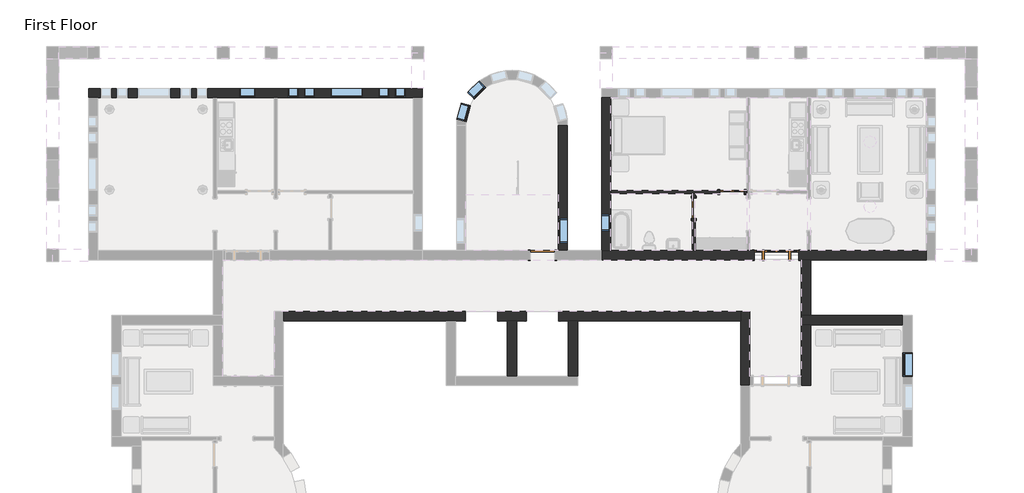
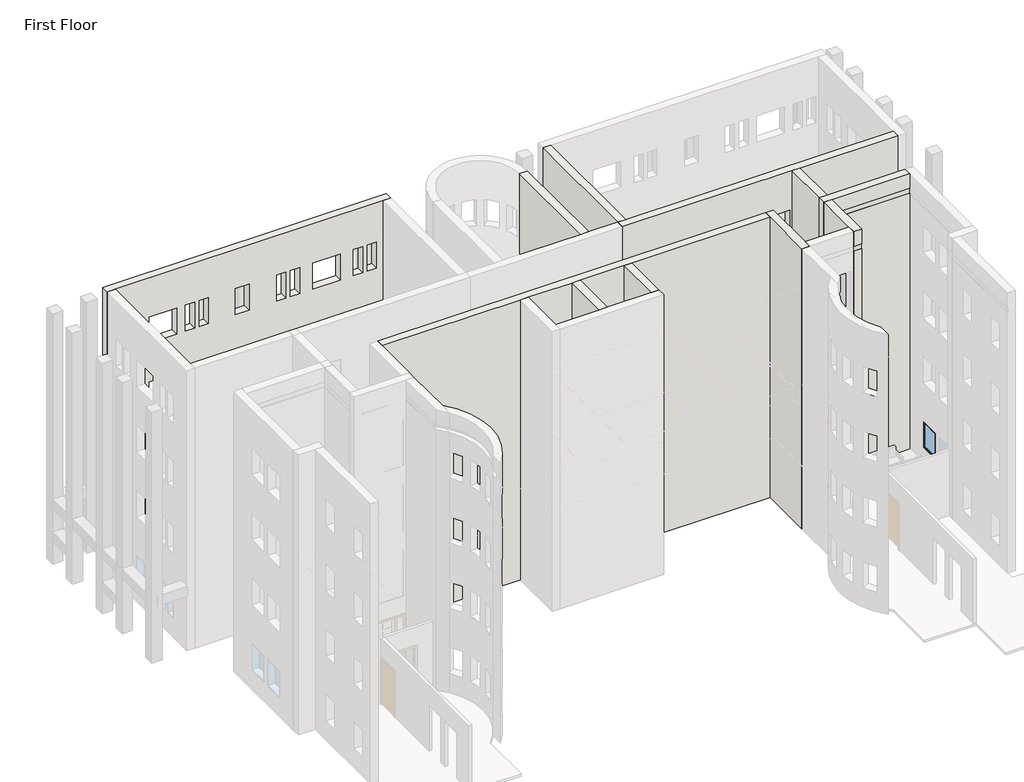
# One storey, part 15 of 24: 13 walls, 11 windows, 4 doors.
"""IFC4 building model written with IfcOpenShell, lengths in millimetres."""

from ifc_helpers import new_model, si_unit, frame, origin, origin_with_axes, place, context, project, spatial, polyline, outline, extrude, faceted_brep, transform, mapped, element, save
from components import door_2e3b4da2, door_4d6c7550, door_632be17d, door_dba5aa2e, window_da97879f, window_d61ef850, window_60baf983, window_ed80354a, window_15c49d37, window_0e2fc6ce, window_d89bf842

model = new_model("IFC4")

# Units and contexts
model_context = context("Model", 3, world=origin())
ifc_project = project(units=[si_unit("LENGTHUNIT", "METRE", prefix="MILLI")], contexts=[model_context])

# Site, building, storey
site = spatial("IfcSite", under=ifc_project)
building = spatial("IfcBuilding", under=site)
storey = spatial("IfcBuildingStorey", under=building, Name="First Floor", Elevation=0.0)

# Doors
placement = place(None, origin())
door_shape = door_2e3b4da2(model_context)
element("IfcDoor", 1, ObjectType="Single-Decorative 2 : 36\" x 84\"", at=placement, inside=storey, context=model_context, shape_type="MappedRepresentation", body=[
    mapped(door_shape, transform((-6669.0589563, 6723.5441867, 0.0), x_axis=(1.0, 0.0, 0.0), y_axis=(0.0, 1.0, 0.0), z_axis=(0.0, 0.0, 1.0))),
])
door_2_shape = door_4d6c7550(model_context)
element("IfcDoor", 2, ObjectType="Single-Flush : 30\" x 84\"", at=placement, inside=storey, context=model_context, shape_type="MappedRepresentation", body=[
    mapped(door_2_shape, transform((-8105.7464563, 6113.9441867, 0.0), x_axis=(0.0, 1.0, 0.0), y_axis=(-1.0, 0.0, 0.0), z_axis=(0.0, 0.0, 1.0))),
])
door_3_shape = door_632be17d(model_context)
element("IfcDoor", 3, ObjectType="Single-Flush : 36\" x 84\"", at=placement, inside=storey, context=model_context, shape_type="MappedRepresentation", body=[
    mapped(door_3_shape, transform((-13792.1714563, 4350.2316867, 0.0), x_axis=(1.0, 0.0, 0.0), y_axis=(0.0, 1.0, 0.0), z_axis=(0.0, 0.0, 1.0))),
])
door_4_shape = door_dba5aa2e(model_context)
element("IfcDoor", 4, ObjectType="Single-Raised Panel with Sidelights : 36\" x 84\"", at=placement, inside=storey, context=model_context, shape_type="MappedRepresentation", body=[
    mapped(door_4_shape, transform((-4992.6589563, 4350.2316867, 0.0), x_axis=(-1.0, 0.0, 0.0), y_axis=(0.0, -1.0, 0.0), z_axis=(0.0, 0.0, 1.0))),
])

# Walls
element("IfcWall", 5, ObjectType="Exterior - Brick on Mtl. Stud", at=placement, inside=storey, context=model_context, shape_type="Brep", body=[
    faceted_brep([(-5830.8589563, 4526.4441867, 2133.6), (-5830.8589563, 4526.4441867, 0.0), (-5995.9589563, 4526.4441867, 0.0), (-6122.9589563, 4526.4441867, 0.0), (-8042.2464563, 4526.4441867, 0.0), (-8169.2464563, 4526.4441867, 0.0), (-11217.2464563, 4526.4441867, 0.0), (-11569.6714563, 4526.4441867, 0.0), (-11571.2589563, 4526.4441867, 0.0), (-11571.2589563, 4526.4441867, 13106.4), (-11569.6714563, 4526.4441867, 13106.4), (-11217.2464563, 4526.4441867, 13106.4), (622.3285437, 4526.4441867, 13106.4), (622.3285437, 4526.4441867, 0.0), (-3709.9589563, 4526.4441867, 0.0), (-3836.9589563, 4526.4441867, 0.0), (-4154.4589563, 4526.4441867, 0.0), (-4154.4589563, 4526.4441867, 2133.6), (-4154.4589563, 4526.4441867, 9144.0), (-4154.4589563, 4526.4441867, 11277.6), (-5830.8589563, 4526.4441867, 11277.6), (-5830.8589563, 4526.4441867, 9144.0), (-4154.4589563, 4526.4441867, 3048.0), (-4154.4589563, 4526.4441867, 5181.6), (-5830.8589563, 4526.4441867, 5181.6), (-5830.8589563, 4526.4441867, 3048.0), (-4154.4589563, 4526.4441867, 6096.0), (-4154.4589563, 4526.4441867, 8229.6), (-5830.8589563, 4526.4441867, 8229.6), (-5830.8589563, 4526.4441867, 6096.0), (-11571.2589563, 4174.0191867, 0.0), (-5830.8589563, 4174.0191867, 0.0), (-5830.8589563, 4174.0191867, 2133.6), (-4154.4589563, 4174.0191867, 2133.6), (-4154.4589563, 4174.0191867, 0.0), (-4062.3839563, 4174.0191867, 0.0), (-3709.9589563, 4174.0191867, 0.0), (622.3285437, 4174.0191867, 0.0), (622.3285437, 4174.0191867, 13106.4), (-3709.9589563, 4174.0191867, 13106.4), (-4062.3839563, 4174.0191867, 13106.4), (-11571.2589563, 4174.0191867, 13106.4), (-4154.4589563, 4174.0191867, 9144.0), (-5830.8589563, 4174.0191867, 9144.0), (-5830.8589563, 4174.0191867, 11277.6), (-4154.4589563, 4174.0191867, 11277.6), (-4154.4589563, 4174.0191867, 3048.0), (-5830.8589563, 4174.0191867, 3048.0), (-5830.8589563, 4174.0191867, 5181.6), (-4154.4589563, 4174.0191867, 5181.6), (-4154.4589563, 4174.0191867, 6096.0), (-5830.8589563, 4174.0191867, 6096.0), (-5830.8589563, 4174.0191867, 8229.6), (-4154.4589563, 4174.0191867, 8229.6)], [[[0, 1, 2, 3, 4, 5, 6, 7, 8, 9, 10, 11, 12, 13, 14, 15, 16, 17], [18, 19, 20, 21], [22, 23, 24, 25], [26, 27, 28, 29]], [[30, 31, 32, 33, 34, 35, 36, 37, 38, 39, 40, 41], [42, 43, 44, 45], [46, 47, 48, 49], [50, 51, 52, 53]], [[8, 7, 6, 5, 4, 3, 2, 1, 31, 30]], [[16, 15, 14, 13, 37, 36, 35, 34]], [[9, 8, 30, 41]], [[12, 11, 10, 9, 41, 40, 39, 38]], [[13, 12, 38, 37]], [[32, 31, 1, 0]], [[33, 32, 0, 17]], [[34, 33, 17, 16]], [[43, 42, 18, 21]], [[44, 43, 21, 20]], [[45, 44, 20, 19]], [[42, 45, 19, 18]], [[47, 46, 22, 25]], [[48, 47, 25, 24]], [[49, 48, 24, 23]], [[46, 49, 23, 22]], [[51, 50, 26, 29]], [[52, 51, 29, 28]], [[53, 52, 28, 27]], [[50, 53, 27, 26]]]),
])
element("IfcWall", 6, ObjectType="Exterior - Brick on Mtl. Stud", at=placement, inside=storey, context=model_context, shape_type="Brep", body=[
    faceted_brep([(-11217.2464563, 4526.4441867, 0.0), (-11217.2464563, 6660.0441867, 0.0), (-11217.2464563, 6787.0441867, 0.0), (-11217.2464563, 10270.0191867, 0.0), (-11217.2464563, 10270.0191867, 13106.4), (-11217.2464563, 4526.4441867, 13106.4), (-11217.2464563, 5264.6316867, 8229.6), (-11217.2464563, 5874.2316867, 8229.6), (-11217.2464563, 5874.2316867, 7010.4), (-11217.2464563, 5264.6316867, 7010.4), (-11217.2464563, 5264.6316867, 5181.6), (-11217.2464563, 5874.2316867, 5181.6), (-11217.2464563, 5874.2316867, 3962.4), (-11217.2464563, 5264.6316867, 3962.4), (-11217.2464563, 5264.6316867, 11277.6), (-11217.2464563, 5874.2316867, 11277.6), (-11217.2464563, 5874.2316867, 10058.4), (-11217.2464563, 5264.6316867, 10058.4), (-11217.2464563, 5264.6316867, 2133.6), (-11217.2464563, 5874.2316867, 2133.6), (-11217.2464563, 5874.2316867, 914.4), (-11217.2464563, 5264.6316867, 914.4), (-11569.6714563, 4526.4441867, 0.0), (-11569.6714563, 4526.4441867, 13106.4), (-11569.6714563, 10270.0191867, 13106.4), (-11569.6714563, 10270.0191867, 0.0), (-11569.6714563, 5264.6316867, 8229.6), (-11569.6714563, 5264.6316867, 7010.4), (-11569.6714563, 5874.2316867, 7010.4), (-11569.6714563, 5874.2316867, 8229.6), (-11569.6714563, 5264.6316867, 5181.6), (-11569.6714563, 5264.6316867, 3962.4), (-11569.6714563, 5874.2316867, 3962.4), (-11569.6714563, 5874.2316867, 5181.6), (-11569.6714563, 5264.6316867, 11277.6), (-11569.6714563, 5264.6316867, 10058.4), (-11569.6714563, 5874.2316867, 10058.4), (-11569.6714563, 5874.2316867, 11277.6), (-11569.6714563, 5264.6316867, 2133.6), (-11569.6714563, 5264.6316867, 914.4), (-11569.6714563, 5874.2316867, 914.4), (-11569.6714563, 5874.2316867, 2133.6), (-11382.3464563, 4526.4441867, 0.0), (-11382.3464563, 10270.0191867, 0.0)], [[[0, 1, 2, 3, 4, 5], [6, 7, 8, 9], [10, 11, 12, 13], [14, 15, 16, 17], [18, 19, 20, 21]], [[22, 23, 24, 25], [26, 27, 28, 29], [30, 31, 32, 33], [34, 35, 36, 37], [38, 39, 40, 41]], [[5, 4, 24, 23]], [[0, 5, 23, 22, 42]], [[4, 3, 43, 25, 24]], [[42, 22, 25, 43]], [[3, 2, 1, 0, 42, 43]], [[27, 26, 6, 9]], [[28, 27, 9, 8]], [[29, 28, 8, 7]], [[26, 29, 7, 6]], [[31, 30, 10, 13]], [[32, 31, 13, 12]], [[33, 32, 12, 11]], [[30, 33, 11, 10]], [[35, 34, 14, 17]], [[36, 35, 17, 16]], [[37, 36, 16, 15]], [[34, 37, 15, 14]], [[39, 38, 18, 21]], [[40, 39, 21, 20]], [[41, 40, 20, 19]], [[38, 41, 19, 18]]]),
])
element("IfcWall", 7, ObjectType="Exterior - Brick on Mtl. Stud", at=placement, inside=storey, context=model_context, shape_type="SweptSolid", body=[
    extrude(outline(polyline([(-12472.9589563, 1888.0191867), (-12472.9589563, -197.9558133), (-12825.3839563, -197.9558133), (-12825.3839563, 1888.0191867), (-12472.9589563, 1888.0191867)])), origin_with_axes(), (0.0, 0.0, 1.0), 13106.4),
])
element("IfcWall", 8, ObjectType="Exterior - Brick on Mtl. Stud", at=placement, inside=storey, context=model_context, shape_type="Brep", body=[
    faceted_brep([(-15468.5714563, 1888.0191867, 0.0), (-15111.3839563, 1888.0191867, 0.0), (-14758.9589563, 1888.0191867, 0.0), (-14401.7714563, 1888.0191867, 0.0), (-14401.7714563, 1888.0191867, 2133.6), (-13182.5714563, 1888.0191867, 2133.6), (-13182.5714563, 1888.0191867, 0.0), (-12825.3839563, 1888.0191867, 0.0), (-12472.9589563, 1888.0191867, 0.0), (-6348.3839563, 1888.0191867, 0.0), (-6348.3839563, 1888.0191867, 13106.4), (-12472.9589563, 1888.0191867, 13106.4), (-12825.3839563, 1888.0191867, 13106.4), (-14758.9589563, 1888.0191867, 13106.4), (-15111.3839563, 1888.0191867, 13106.4), (-17044.9589563, 1888.0191867, 13106.4), (-17397.3839563, 1888.0191867, 13106.4), (-23521.9589563, 1888.0191867, 13106.4), (-23521.9589563, 1888.0191867, 0.0), (-17397.3839563, 1888.0191867, 0.0), (-17044.9589563, 1888.0191867, 0.0), (-16687.7714563, 1888.0191867, 0.0), (-16687.7714563, 1888.0191867, 2133.6), (-15468.5714563, 1888.0191867, 2133.6), (-13182.5714563, 1888.0191867, 8229.6), (-13182.5714563, 1888.0191867, 6096.0), (-14401.7714563, 1888.0191867, 6096.0), (-14401.7714563, 1888.0191867, 8229.6), (-15468.5714563, 1888.0191867, 8229.6), (-15468.5714563, 1888.0191867, 6096.0), (-16687.7714563, 1888.0191867, 6096.0), (-16687.7714563, 1888.0191867, 8229.6), (-13182.5714563, 1888.0191867, 5181.6), (-13182.5714563, 1888.0191867, 3048.0), (-14401.7714563, 1888.0191867, 3048.0), (-14401.7714563, 1888.0191867, 5181.6), (-15468.5714563, 1888.0191867, 5181.6), (-15468.5714563, 1888.0191867, 3048.0), (-16687.7714563, 1888.0191867, 3048.0), (-16687.7714563, 1888.0191867, 5181.6), (-13182.5714563, 1888.0191867, 11277.6), (-13182.5714563, 1888.0191867, 9144.0), (-14401.7714563, 1888.0191867, 9144.0), (-14401.7714563, 1888.0191867, 11277.6), (-15468.5714563, 1888.0191867, 11277.6), (-15468.5714563, 1888.0191867, 9144.0), (-16687.7714563, 1888.0191867, 9144.0), (-16687.7714563, 1888.0191867, 11277.6), (-14401.7714563, 2240.4441867, 2133.6), (-14401.7714563, 2240.4441867, 0.0), (-15468.5714563, 2240.4441867, 0.0), (-15468.5714563, 2240.4441867, 2133.6), (-16687.7714563, 2240.4441867, 2133.6), (-16687.7714563, 2240.4441867, 0.0), (-23521.9589563, 2240.4441867, 0.0), (-23521.9589563, 2240.4441867, 13106.4), (-6348.3839563, 2240.4441867, 13106.4), (-6348.3839563, 2240.4441867, 0.0), (-13182.5714563, 2240.4441867, 0.0), (-13182.5714563, 2240.4441867, 2133.6), (-13182.5714563, 2240.4441867, 8229.6), (-14401.7714563, 2240.4441867, 8229.6), (-14401.7714563, 2240.4441867, 6096.0), (-13182.5714563, 2240.4441867, 6096.0), (-15468.5714563, 2240.4441867, 8229.6), (-16687.7714563, 2240.4441867, 8229.6), (-16687.7714563, 2240.4441867, 6096.0), (-15468.5714563, 2240.4441867, 6096.0), (-13182.5714563, 2240.4441867, 5181.6), (-14401.7714563, 2240.4441867, 5181.6), (-14401.7714563, 2240.4441867, 3048.0), (-13182.5714563, 2240.4441867, 3048.0), (-15468.5714563, 2240.4441867, 5181.6), (-16687.7714563, 2240.4441867, 5181.6), (-16687.7714563, 2240.4441867, 3048.0), (-15468.5714563, 2240.4441867, 3048.0), (-13182.5714563, 2240.4441867, 11277.6), (-14401.7714563, 2240.4441867, 11277.6), (-14401.7714563, 2240.4441867, 9144.0), (-13182.5714563, 2240.4441867, 9144.0), (-15468.5714563, 2240.4441867, 11277.6), (-16687.7714563, 2240.4441867, 11277.6), (-16687.7714563, 2240.4441867, 9144.0), (-15468.5714563, 2240.4441867, 9144.0)], [[[0, 1, 2, 3, 4, 5, 6, 7, 8, 9, 10, 11, 12, 13, 14, 15, 16, 17, 18, 19, 20, 21, 22, 23], [24, 25, 26, 27], [28, 29, 30, 31], [32, 33, 34, 35], [36, 37, 38, 39], [40, 41, 42, 43], [44, 45, 46, 47]], [[48, 49, 50, 51, 52, 53, 54, 55, 56, 57, 58, 59], [60, 61, 62, 63], [64, 65, 66, 67], [68, 69, 70, 71], [72, 73, 74, 75], [76, 77, 78, 79], [80, 81, 82, 83]], [[54, 53, 21, 20, 19, 18]], [[50, 49, 3, 2, 1, 0]], [[58, 57, 9, 8, 7, 6]], [[17, 16, 15, 14, 13, 12, 11, 10, 56, 55]], [[10, 9, 57, 56]], [[18, 17, 55, 54]], [[0, 23, 51, 50]], [[22, 21, 53, 52]], [[23, 22, 52, 51]], [[6, 5, 59, 58]], [[4, 3, 49, 48]], [[5, 4, 48, 59]], [[25, 24, 60, 63]], [[26, 25, 63, 62]], [[27, 26, 62, 61]], [[24, 27, 61, 60]], [[29, 28, 64, 67]], [[30, 29, 67, 66]], [[31, 30, 66, 65]], [[28, 31, 65, 64]], [[33, 32, 68, 71]], [[34, 33, 71, 70]], [[35, 34, 70, 69]], [[32, 35, 69, 68]], [[37, 36, 72, 75]], [[38, 37, 75, 74]], [[39, 38, 74, 73]], [[36, 39, 73, 72]], [[41, 40, 76, 79]], [[42, 41, 79, 78]], [[43, 42, 78, 77]], [[40, 43, 77, 76]], [[45, 44, 80, 83]], [[46, 45, 83, 82]], [[47, 46, 82, 81]], [[44, 47, 81, 80]]]),
])
element("IfcWall", 9, ObjectType="Exterior - Brick on Mtl. Stud", at=placement, inside=storey, context=model_context, shape_type="SweptSolid", body=[
    extrude(outline(polyline([(4526.4441867, 0.0), (4526.4441867, 13106.4), (9227.0316867, 13106.4), (9227.0316867, 0.0), (4526.4441867, 0.0)]), holes=[polyline([(5721.8316867, 8229.6), (4807.4316867, 8229.6), (4807.4316867, 7010.4), (5721.8316867, 7010.4), (5721.8316867, 8229.6)]), polyline([(5721.8316867, 5181.6), (4807.4316867, 5181.6), (4807.4316867, 3962.4), (5721.8316867, 3962.4), (5721.8316867, 5181.6)]), polyline([(5721.8316867, 11277.6), (4807.4316867, 11277.6), (4807.4316867, 10058.4), (5721.8316867, 10058.4), (5721.8316867, 11277.6)]), polyline([(5721.8316867, 2133.6), (4807.4316867, 2133.6), (4807.4316867, 914.4), (5721.8316867, 914.4), (5721.8316867, 2133.6)])]), frame((-13206.3839563, 0.0, 0.0), z_axis=(1.0, 0.0, 0.0), x_axis=(0.0, 1.0, 0.0)), (0.0, 0.0, 1.0), 352.425),
])
element("IfcWall", 10, ObjectType="Exterior - Brick on Mtl. Stud", at=placement, inside=storey, context=model_context, shape_type="SweptSolid", body=[
    extrude(outline(polyline([(-14758.9589563, 1888.0191867), (-14758.9589563, -197.9558133), (-15111.3839563, -197.9558133), (-15111.3839563, 1888.0191867), (-14758.9589563, 1888.0191867)])), origin_with_axes(), (0.0, 0.0, 1.0), 13106.4),
])
element("IfcWall", 11, ObjectType="Exterior - Brick on Mtl. Stud", at=placement, inside=storey, context=model_context, shape_type="Brep", body=[
    faceted_brep([(-6348.3839563, 2240.4441867, 0.0), (-6348.3839563, 1888.0191867, 0.0), (-6348.3839563, -550.3808133, 0.0), (-6348.3839563, -550.3808133, 13106.4), (-6348.3839563, 1888.0191867, 13106.4), (-6348.3839563, 2240.4441867, 13106.4), (-5995.9589563, 2240.4441867, 0.0), (-5995.9589563, 2240.4441867, 13106.4), (-5995.9589563, -197.9558133, 13106.4), (-5995.9589563, -550.3808133, 13106.4), (-5995.9589563, -550.3808133, 12420.6), (-5995.9589563, -550.3808133, 12192.0), (-5995.9589563, -550.3808133, 0.0), (-5995.9589563, -197.9558133, 0.0)], [[[0, 1, 2, 3, 4, 5]], [[6, 7, 8, 9, 10, 11, 12, 13]], [[2, 1, 0, 6, 13, 12]], [[5, 4, 3, 9, 8, 7]], [[0, 5, 7, 6]], [[3, 2, 12, 11, 10, 9]]]),
])
element("IfcWall", 12, ObjectType="Exterior - Brick on Mtl. Stud", at=placement, inside=storey, context=model_context, shape_type="SweptSolid", body=[
    extrude(outline(polyline([(-3709.9589563, 4174.0191867), (-3709.9589563, 2088.0441867), (-4062.3839563, 2088.0441867), (-4062.3839563, 4174.0191867), (-3709.9589563, 4174.0191867)])), origin_with_axes(), (0.0, 0.0, 1.0), 13106.4),
])
element("IfcWall", 13, ObjectType="Exterior - Brick on Mtl. Stud", at=placement, inside=storey, context=model_context, shape_type="Brep", body=[
    faceted_brep([(-252.3839563, 2088.0441867, 0.0), (-3709.9589563, 2088.0441867, 0.0), (-4062.3839563, 2088.0441867, 0.0), (-4062.3839563, 2088.0441867, 13106.4), (-3709.9589563, 2088.0441867, 13106.4), (-252.3839563, 2088.0441867, 13106.4), (-4062.3839563, 1735.6191867, 0.0), (-3709.9589563, 1735.6191867, 0.0), (-252.3839563, 1735.6191867, 0.0), (-252.3839563, 1735.6191867, 12192.0), (-3709.9589563, 1735.6191867, 12192.0), (-3722.6589563, 1735.6191867, 12192.0), (-3722.6589563, 1735.6191867, 12420.6), (-3709.9589563, 1735.6191867, 12420.6), (-252.3839563, 1735.6191867, 12420.6), (-252.3839563, 1735.6191867, 13106.4), (-3709.9589563, 1735.6191867, 13106.4), (-4062.3839563, 1735.6191867, 13106.4), (-252.3839563, 1748.3191867, 12420.6), (-252.3839563, 1748.3191867, 12192.0), (-3722.6589563, 1748.3191867, 12192.0), (-3722.6589563, 1748.3191867, 12420.6)], [[[0, 1, 2, 3, 4, 5]], [[6, 7, 8, 9, 10, 11, 12, 13, 14, 15, 16, 17]], [[2, 1, 0, 8, 7, 6]], [[5, 4, 3, 17, 16, 15]], [[3, 2, 6, 17]], [[0, 5, 15, 14, 18, 19, 9, 8]], [[19, 20, 11, 10, 9]], [[12, 21, 18, 14, 13]], [[21, 20, 19, 18]], [[20, 21, 12, 11]]]),
])
element("IfcWall", 14, ObjectType="Exterior - Brick on Mtl. Stud", at=placement, inside=storey, context=model_context, shape_type="Brep", body=[
    faceted_brep([(-4062.3839563, 1735.6191867, 0.0), (-4062.3839563, -197.9558133, 0.0), (-4062.3839563, -550.3808133, 0.0), (-4062.3839563, -550.3808133, 12192.0), (-4062.3839563, -537.6808133, 12192.0), (-4062.3839563, -537.6808133, 12420.6), (-4062.3839563, -550.3808133, 12420.6), (-4062.3839563, -550.3808133, 13106.4), (-4062.3839563, -197.9558133, 13106.4), (-4062.3839563, 1735.6191867, 13106.4), (-3709.9589563, -550.3808133, 0.0), (-3709.9589563, 1735.6191867, 0.0), (-3709.9589563, 1735.6191867, 12192.0), (-3709.9589563, -550.3808133, 12192.0), (-3709.9589563, 1735.6191867, 13106.4), (-3709.9589563, -550.3808133, 13106.4), (-3709.9589563, -550.3808133, 12420.6), (-3709.9589563, 1735.6191867, 12420.6), (-3722.6589563, 1735.6191867, 12420.6), (-3722.6589563, 1735.6191867, 12192.0), (-3722.6589563, -537.6808133, 12192.0), (-3722.6589563, -537.6808133, 12420.6)], [[[0, 1, 2, 3, 4, 5, 6, 7, 8, 9]], [[10, 11, 12, 13]], [[14, 15, 16, 17]], [[2, 1, 0, 11, 10]], [[9, 8, 7, 15, 14]], [[0, 9, 14, 17, 18, 19, 12, 11]], [[2, 10, 13, 3]], [[15, 7, 6, 16]], [[19, 20, 4, 3, 13, 12]], [[5, 21, 18, 17, 16, 6]], [[21, 20, 19, 18]], [[20, 21, 5, 4]]]),
])
element("IfcWall", 15, ObjectType="Exterior - Brick on Mtl. Stud", at=placement, inside=storey, context=model_context, shape_type="Brep", body=[
    faceted_brep([(-18300.6714563, 10622.4441867, 0.0), (-18487.9964563, 10622.4441867, 0.0), (-30657.7714563, 10622.4441867, 0.0), (-30845.0964563, 10622.4441867, 0.0), (-30845.0964563, 10622.4441867, 13106.4), (-18300.6714563, 10622.4441867, 13106.4), (-24572.8839563, 10622.4441867, 2133.6), (-25182.4839563, 10622.4441867, 2133.6), (-25182.4839563, 10622.4441867, 914.4), (-24572.8839563, 10622.4441867, 914.4), (-20534.2839563, 10622.4441867, 2133.6), (-21753.4839563, 10622.4441867, 2133.6), (-21753.4839563, 10622.4441867, 914.4), (-20534.2839563, 10622.4441867, 914.4), (-27773.2839563, 10622.4441867, 2133.6), (-28992.4839563, 10622.4441867, 2133.6), (-28992.4839563, 10622.4441867, 914.4), (-27773.2839563, 10622.4441867, 914.4), (-18934.0839563, 10622.4441867, 2133.6), (-19340.4839563, 10622.4441867, 2133.6), (-19340.4839563, 10622.4441867, 914.4), (-18934.0839563, 10622.4441867, 914.4), (-19543.6839563, 10622.4441867, 2133.6), (-19950.0839563, 10622.4441867, 2133.6), (-19950.0839563, 10622.4441867, 914.4), (-19543.6839563, 10622.4441867, 914.4), (-23353.6839563, 10622.4441867, 2133.6), (-23353.6839563, 10622.4441867, 914.4), (-22947.2839563, 10622.4441867, 914.4), (-22947.2839563, 10622.4441867, 2133.6), (-22744.0839563, 10622.4441867, 2133.6), (-22744.0839563, 10622.4441867, 914.4), (-22337.6839563, 10622.4441867, 914.4), (-22337.6839563, 10622.4441867, 2133.6), (-26376.2839563, 10622.4441867, 2133.6), (-26782.6839563, 10622.4441867, 2133.6), (-26782.6839563, 10622.4441867, 914.4), (-26376.2839563, 10622.4441867, 914.4), (-26985.8839563, 10622.4441867, 2133.6), (-27392.2839563, 10622.4441867, 2133.6), (-27392.2839563, 10622.4441867, 914.4), (-26985.8839563, 10622.4441867, 914.4), (-30389.4839563, 10622.4441867, 2133.6), (-30389.4839563, 10622.4441867, 914.4), (-29983.0839563, 10622.4441867, 914.4), (-29983.0839563, 10622.4441867, 2133.6), (-29779.8839563, 10622.4441867, 2133.6), (-29779.8839563, 10622.4441867, 914.4), (-29373.4839563, 10622.4441867, 914.4), (-29373.4839563, 10622.4441867, 2133.6), (-24572.8839563, 10622.4441867, 11277.6), (-25182.4839563, 10622.4441867, 11277.6), (-25182.4839563, 10622.4441867, 10058.4), (-24572.8839563, 10622.4441867, 10058.4), (-20534.2839563, 10622.4441867, 11277.6), (-21753.4839563, 10622.4441867, 11277.6), (-21753.4839563, 10622.4441867, 10058.4), (-20534.2839563, 10622.4441867, 10058.4), (-27773.2839563, 10622.4441867, 11277.6), (-28992.4839563, 10622.4441867, 11277.6), (-28992.4839563, 10622.4441867, 10058.4), (-27773.2839563, 10622.4441867, 10058.4), (-18934.0839563, 10622.4441867, 11277.6), (-19340.4839563, 10622.4441867, 11277.6), (-19340.4839563, 10622.4441867, 10058.4), (-18934.0839563, 10622.4441867, 10058.4), (-19543.6839563, 10622.4441867, 11277.6), (-19950.0839563, 10622.4441867, 11277.6), (-19950.0839563, 10622.4441867, 10058.4), (-19543.6839563, 10622.4441867, 10058.4), (-23353.6839563, 10622.4441867, 11277.6), (-23353.6839563, 10622.4441867, 10058.4), (-22947.2839563, 10622.4441867, 10058.4), (-22947.2839563, 10622.4441867, 11277.6), (-22744.0839563, 10622.4441867, 11277.6), (-22744.0839563, 10622.4441867, 10058.4), (-22337.6839563, 10622.4441867, 10058.4), (-22337.6839563, 10622.4441867, 11277.6), (-26376.2839563, 10622.4441867, 11277.6), (-26782.6839563, 10622.4441867, 11277.6), (-26782.6839563, 10622.4441867, 10058.4), (-26376.2839563, 10622.4441867, 10058.4), (-26985.8839563, 10622.4441867, 11277.6), (-27392.2839563, 10622.4441867, 11277.6), (-27392.2839563, 10622.4441867, 10058.4), (-26985.8839563, 10622.4441867, 10058.4), (-30389.4839563, 10622.4441867, 11277.6), (-30389.4839563, 10622.4441867, 10058.4), (-29983.0839563, 10622.4441867, 10058.4), (-29983.0839563, 10622.4441867, 11277.6), (-29779.8839563, 10622.4441867, 11277.6), (-29779.8839563, 10622.4441867, 10058.4), (-29373.4839563, 10622.4441867, 10058.4), (-29373.4839563, 10622.4441867, 11277.6), (-24572.8839563, 10622.4441867, 5181.6), (-25182.4839563, 10622.4441867, 5181.6), (-25182.4839563, 10622.4441867, 3962.4), (-24572.8839563, 10622.4441867, 3962.4), (-20534.2839563, 10622.4441867, 5181.6), (-21753.4839563, 10622.4441867, 5181.6), (-21753.4839563, 10622.4441867, 3962.4), (-20534.2839563, 10622.4441867, 3962.4), (-27773.2839563, 10622.4441867, 5181.6), (-28992.4839563, 10622.4441867, 5181.6), (-28992.4839563, 10622.4441867, 3962.4), (-27773.2839563, 10622.4441867, 3962.4), (-18934.0839563, 10622.4441867, 5181.6), (-19340.4839563, 10622.4441867, 5181.6), (-19340.4839563, 10622.4441867, 3962.4), (-18934.0839563, 10622.4441867, 3962.4), (-19543.6839563, 10622.4441867, 5181.6), (-19950.0839563, 10622.4441867, 5181.6), (-19950.0839563, 10622.4441867, 3962.4), (-19543.6839563, 10622.4441867, 3962.4), (-23353.6839563, 10622.4441867, 5181.6), (-23353.6839563, 10622.4441867, 3962.4), (-22947.2839563, 10622.4441867, 3962.4), (-22947.2839563, 10622.4441867, 5181.6), (-22744.0839563, 10622.4441867, 5181.6), (-22744.0839563, 10622.4441867, 3962.4), (-22337.6839563, 10622.4441867, 3962.4), (-22337.6839563, 10622.4441867, 5181.6), (-26376.2839563, 10622.4441867, 5181.6), (-26782.6839563, 10622.4441867, 5181.6), (-26782.6839563, 10622.4441867, 3962.4), (-26376.2839563, 10622.4441867, 3962.4), (-26985.8839563, 10622.4441867, 5181.6), (-27392.2839563, 10622.4441867, 5181.6), (-27392.2839563, 10622.4441867, 3962.4), (-26985.8839563, 10622.4441867, 3962.4), (-30389.4839563, 10622.4441867, 5181.6), (-30389.4839563, 10622.4441867, 3962.4), (-29983.0839563, 10622.4441867, 3962.4), (-29983.0839563, 10622.4441867, 5181.6), (-29779.8839563, 10622.4441867, 5181.6), (-29779.8839563, 10622.4441867, 3962.4), (-29373.4839563, 10622.4441867, 3962.4), (-29373.4839563, 10622.4441867, 5181.6), (-24572.8839563, 10622.4441867, 8229.6), (-25182.4839563, 10622.4441867, 8229.6), (-25182.4839563, 10622.4441867, 7010.4), (-24572.8839563, 10622.4441867, 7010.4), (-20534.2839563, 10622.4441867, 8229.6), (-21753.4839563, 10622.4441867, 8229.6), (-21753.4839563, 10622.4441867, 7010.4), (-20534.2839563, 10622.4441867, 7010.4), (-27773.2839563, 10622.4441867, 8229.6), (-28992.4839563, 10622.4441867, 8229.6), (-28992.4839563, 10622.4441867, 7010.4), (-27773.2839563, 10622.4441867, 7010.4), (-18934.0839563, 10622.4441867, 8229.6), (-19340.4839563, 10622.4441867, 8229.6), (-19340.4839563, 10622.4441867, 7010.4), (-18934.0839563, 10622.4441867, 7010.4), (-19543.6839563, 10622.4441867, 8229.6), (-19950.0839563, 10622.4441867, 8229.6), (-19950.0839563, 10622.4441867, 7010.4), (-19543.6839563, 10622.4441867, 7010.4), (-23353.6839563, 10622.4441867, 8229.6), (-23353.6839563, 10622.4441867, 7010.4), (-22947.2839563, 10622.4441867, 7010.4), (-22947.2839563, 10622.4441867, 8229.6), (-22744.0839563, 10622.4441867, 8229.6), (-22744.0839563, 10622.4441867, 7010.4), (-22337.6839563, 10622.4441867, 7010.4), (-22337.6839563, 10622.4441867, 8229.6), (-26376.2839563, 10622.4441867, 8229.6), (-26782.6839563, 10622.4441867, 8229.6), (-26782.6839563, 10622.4441867, 7010.4), (-26376.2839563, 10622.4441867, 7010.4), (-26985.8839563, 10622.4441867, 8229.6), (-27392.2839563, 10622.4441867, 8229.6), (-27392.2839563, 10622.4441867, 7010.4), (-26985.8839563, 10622.4441867, 7010.4), (-30389.4839563, 10622.4441867, 8229.6), (-30389.4839563, 10622.4441867, 7010.4), (-29983.0839563, 10622.4441867, 7010.4), (-29983.0839563, 10622.4441867, 8229.6), (-29779.8839563, 10622.4441867, 8229.6), (-29779.8839563, 10622.4441867, 7010.4), (-29373.4839563, 10622.4441867, 7010.4), (-29373.4839563, 10622.4441867, 8229.6), (-18300.6714563, 10270.0191867, 0.0), (-18300.6714563, 10270.0191867, 13106.4), (-18653.0964563, 10270.0191867, 13106.4), (-30492.6714563, 10270.0191867, 13106.4), (-30845.0964563, 10270.0191867, 13106.4), (-30845.0964563, 10270.0191867, 0.0), (-30657.7714563, 10270.0191867, 0.0), (-30492.6714563, 10270.0191867, 0.0), (-26160.3839563, 10270.0191867, 0.0), (-26033.3839563, 10270.0191867, 0.0), (-23874.3839563, 10270.0191867, 0.0), (-23747.3839563, 10270.0191867, 0.0), (-18653.0964563, 10270.0191867, 0.0), (-18487.9964563, 10270.0191867, 0.0), (-24572.8839563, 10270.0191867, 2133.6), (-24572.8839563, 10270.0191867, 914.4), (-25182.4839563, 10270.0191867, 914.4), (-25182.4839563, 10270.0191867, 2133.6), (-20534.2839563, 10270.0191867, 2133.6), (-20534.2839563, 10270.0191867, 914.4), (-21753.4839563, 10270.0191867, 914.4), (-21753.4839563, 10270.0191867, 2133.6), (-27773.2839563, 10270.0191867, 2133.6), (-27773.2839563, 10270.0191867, 914.4), (-28992.4839563, 10270.0191867, 914.4), (-28992.4839563, 10270.0191867, 2133.6), (-18934.0839563, 10270.0191867, 2133.6), (-18934.0839563, 10270.0191867, 914.4), (-19340.4839563, 10270.0191867, 914.4), (-19340.4839563, 10270.0191867, 2133.6), (-19543.6839563, 10270.0191867, 2133.6), (-19543.6839563, 10270.0191867, 914.4), (-19950.0839563, 10270.0191867, 914.4), (-19950.0839563, 10270.0191867, 2133.6), (-23353.6839563, 10270.0191867, 2133.6), (-22947.2839563, 10270.0191867, 2133.6), (-22947.2839563, 10270.0191867, 914.4), (-23353.6839563, 10270.0191867, 914.4), (-22744.0839563, 10270.0191867, 2133.6), (-22337.6839563, 10270.0191867, 2133.6), (-22337.6839563, 10270.0191867, 914.4), (-22744.0839563, 10270.0191867, 914.4), (-26376.2839563, 10270.0191867, 2133.6), (-26376.2839563, 10270.0191867, 914.4), (-26782.6839563, 10270.0191867, 914.4), (-26782.6839563, 10270.0191867, 2133.6), (-26985.8839563, 10270.0191867, 2133.6), (-26985.8839563, 10270.0191867, 914.4), (-27392.2839563, 10270.0191867, 914.4), (-27392.2839563, 10270.0191867, 2133.6), (-30389.4839563, 10270.0191867, 2133.6), (-29983.0839563, 10270.0191867, 2133.6), (-29983.0839563, 10270.0191867, 914.4), (-30389.4839563, 10270.0191867, 914.4), (-29779.8839563, 10270.0191867, 2133.6), (-29373.4839563, 10270.0191867, 2133.6), (-29373.4839563, 10270.0191867, 914.4), (-29779.8839563, 10270.0191867, 914.4), (-24572.8839563, 10270.0191867, 11277.6), (-24572.8839563, 10270.0191867, 10058.4), (-25182.4839563, 10270.0191867, 10058.4), (-25182.4839563, 10270.0191867, 11277.6), (-20534.2839563, 10270.0191867, 11277.6), (-20534.2839563, 10270.0191867, 10058.4), (-21753.4839563, 10270.0191867, 10058.4), (-21753.4839563, 10270.0191867, 11277.6), (-27773.2839563, 10270.0191867, 11277.6), (-27773.2839563, 10270.0191867, 10058.4), (-28992.4839563, 10270.0191867, 10058.4), (-28992.4839563, 10270.0191867, 11277.6), (-18934.0839563, 10270.0191867, 11277.6), (-18934.0839563, 10270.0191867, 10058.4), (-19340.4839563, 10270.0191867, 10058.4), (-19340.4839563, 10270.0191867, 11277.6), (-19543.6839563, 10270.0191867, 11277.6), (-19543.6839563, 10270.0191867, 10058.4), (-19950.0839563, 10270.0191867, 10058.4), (-19950.0839563, 10270.0191867, 11277.6), (-23353.6839563, 10270.0191867, 11277.6), (-22947.2839563, 10270.0191867, 11277.6), (-22947.2839563, 10270.0191867, 10058.4), (-23353.6839563, 10270.0191867, 10058.4), (-22744.0839563, 10270.0191867, 11277.6), (-22337.6839563, 10270.0191867, 11277.6), (-22337.6839563, 10270.0191867, 10058.4), (-22744.0839563, 10270.0191867, 10058.4), (-26376.2839563, 10270.0191867, 11277.6), (-26376.2839563, 10270.0191867, 10058.4), (-26782.6839563, 10270.0191867, 10058.4), (-26782.6839563, 10270.0191867, 11277.6), (-26985.8839563, 10270.0191867, 11277.6), (-26985.8839563, 10270.0191867, 10058.4), (-27392.2839563, 10270.0191867, 10058.4), (-27392.2839563, 10270.0191867, 11277.6), (-30389.4839563, 10270.0191867, 11277.6), (-29983.0839563, 10270.0191867, 11277.6), (-29983.0839563, 10270.0191867, 10058.4), (-30389.4839563, 10270.0191867, 10058.4), (-29779.8839563, 10270.0191867, 11277.6), (-29373.4839563, 10270.0191867, 11277.6), (-29373.4839563, 10270.0191867, 10058.4), (-29779.8839563, 10270.0191867, 10058.4), (-24572.8839563, 10270.0191867, 5181.6), (-24572.8839563, 10270.0191867, 3962.4), (-25182.4839563, 10270.0191867, 3962.4), (-25182.4839563, 10270.0191867, 5181.6), (-20534.2839563, 10270.0191867, 5181.6), (-20534.2839563, 10270.0191867, 3962.4), (-21753.4839563, 10270.0191867, 3962.4), (-21753.4839563, 10270.0191867, 5181.6), (-27773.2839563, 10270.0191867, 5181.6), (-27773.2839563, 10270.0191867, 3962.4), (-28992.4839563, 10270.0191867, 3962.4), (-28992.4839563, 10270.0191867, 5181.6), (-18934.0839563, 10270.0191867, 5181.6), (-18934.0839563, 10270.0191867, 3962.4), (-19340.4839563, 10270.0191867, 3962.4), (-19340.4839563, 10270.0191867, 5181.6), (-19543.6839563, 10270.0191867, 5181.6), (-19543.6839563, 10270.0191867, 3962.4), (-19950.0839563, 10270.0191867, 3962.4), (-19950.0839563, 10270.0191867, 5181.6), (-23353.6839563, 10270.0191867, 5181.6), (-22947.2839563, 10270.0191867, 5181.6), (-22947.2839563, 10270.0191867, 3962.4), (-23353.6839563, 10270.0191867, 3962.4), (-22744.0839563, 10270.0191867, 5181.6), (-22337.6839563, 10270.0191867, 5181.6), (-22337.6839563, 10270.0191867, 3962.4), (-22744.0839563, 10270.0191867, 3962.4), (-26376.2839563, 10270.0191867, 5181.6), (-26376.2839563, 10270.0191867, 3962.4), (-26782.6839563, 10270.0191867, 3962.4), (-26782.6839563, 10270.0191867, 5181.6), (-26985.8839563, 10270.0191867, 5181.6), (-26985.8839563, 10270.0191867, 3962.4), (-27392.2839563, 10270.0191867, 3962.4), (-27392.2839563, 10270.0191867, 5181.6), (-30389.4839563, 10270.0191867, 5181.6), (-29983.0839563, 10270.0191867, 5181.6), (-29983.0839563, 10270.0191867, 3962.4), (-30389.4839563, 10270.0191867, 3962.4), (-29779.8839563, 10270.0191867, 5181.6), (-29373.4839563, 10270.0191867, 5181.6), (-29373.4839563, 10270.0191867, 3962.4), (-29779.8839563, 10270.0191867, 3962.4), (-24572.8839563, 10270.0191867, 8229.6), (-24572.8839563, 10270.0191867, 7010.4), (-25182.4839563, 10270.0191867, 7010.4), (-25182.4839563, 10270.0191867, 8229.6), (-20534.2839563, 10270.0191867, 8229.6), (-20534.2839563, 10270.0191867, 7010.4), (-21753.4839563, 10270.0191867, 7010.4), (-21753.4839563, 10270.0191867, 8229.6), (-27773.2839563, 10270.0191867, 8229.6), (-27773.2839563, 10270.0191867, 7010.4), (-28992.4839563, 10270.0191867, 7010.4), (-28992.4839563, 10270.0191867, 8229.6), (-18934.0839563, 10270.0191867, 8229.6), (-18934.0839563, 10270.0191867, 7010.4), (-19340.4839563, 10270.0191867, 7010.4), (-19340.4839563, 10270.0191867, 8229.6), (-19543.6839563, 10270.0191867, 8229.6), (-19543.6839563, 10270.0191867, 7010.4), (-19950.0839563, 10270.0191867, 7010.4), (-19950.0839563, 10270.0191867, 8229.6), (-23353.6839563, 10270.0191867, 8229.6), (-22947.2839563, 10270.0191867, 8229.6), (-22947.2839563, 10270.0191867, 7010.4), (-23353.6839563, 10270.0191867, 7010.4), (-22744.0839563, 10270.0191867, 8229.6), (-22337.6839563, 10270.0191867, 8229.6), (-22337.6839563, 10270.0191867, 7010.4), (-22744.0839563, 10270.0191867, 7010.4), (-26376.2839563, 10270.0191867, 8229.6), (-26376.2839563, 10270.0191867, 7010.4), (-26782.6839563, 10270.0191867, 7010.4), (-26782.6839563, 10270.0191867, 8229.6), (-26985.8839563, 10270.0191867, 8229.6), (-26985.8839563, 10270.0191867, 7010.4), (-27392.2839563, 10270.0191867, 7010.4), (-27392.2839563, 10270.0191867, 8229.6), (-30389.4839563, 10270.0191867, 8229.6), (-29983.0839563, 10270.0191867, 8229.6), (-29983.0839563, 10270.0191867, 7010.4), (-30389.4839563, 10270.0191867, 7010.4), (-29779.8839563, 10270.0191867, 8229.6), (-29373.4839563, 10270.0191867, 8229.6), (-29373.4839563, 10270.0191867, 7010.4), (-29779.8839563, 10270.0191867, 7010.4), (-30845.0964563, 10435.1191867, 0.0), (-18300.6714563, 10435.1191867, 0.0), (-18487.9964563, 10435.1191867, 0.0), (-30657.7714563, 10435.1191867, 0.0)], [[[0, 1, 2, 3, 4, 5], [6, 7, 8, 9], [10, 11, 12, 13], [14, 15, 16, 17], [18, 19, 20, 21], [22, 23, 24, 25], [26, 27, 28, 29], [30, 31, 32, 33], [34, 35, 36, 37], [38, 39, 40, 41], [42, 43, 44, 45], [46, 47, 48, 49], [50, 51, 52, 53], [54, 55, 56, 57], [58, 59, 60, 61], [62, 63, 64, 65], [66, 67, 68, 69], [70, 71, 72, 73], [74, 75, 76, 77], [78, 79, 80, 81], [82, 83, 84, 85], [86, 87, 88, 89], [90, 91, 92, 93], [94, 95, 96, 97], [98, 99, 100, 101], [102, 103, 104, 105], [106, 107, 108, 109], [110, 111, 112, 113], [114, 115, 116, 117], [118, 119, 120, 121], [122, 123, 124, 125], [126, 127, 128, 129], [130, 131, 132, 133], [134, 135, 136, 137], [138, 139, 140, 141], [142, 143, 144, 145], [146, 147, 148, 149], [150, 151, 152, 153], [154, 155, 156, 157], [158, 159, 160, 161], [162, 163, 164, 165], [166, 167, 168, 169], [170, 171, 172, 173], [174, 175, 176, 177], [178, 179, 180, 181]], [[182, 183, 184, 185, 186, 187, 188, 189, 190, 191, 192, 193, 194, 195], [196, 197, 198, 199], [200, 201, 202, 203], [204, 205, 206, 207], [208, 209, 210, 211], [212, 213, 214, 215], [216, 217, 218, 219], [220, 221, 222, 223], [224, 225, 226, 227], [228, 229, 230, 231], [232, 233, 234, 235], [236, 237, 238, 239], [240, 241, 242, 243], [244, 245, 246, 247], [248, 249, 250, 251], [252, 253, 254, 255], [256, 257, 258, 259], [260, 261, 262, 263], [264, 265, 266, 267], [268, 269, 270, 271], [272, 273, 274, 275], [276, 277, 278, 279], [280, 281, 282, 283], [284, 285, 286, 287], [288, 289, 290, 291], [292, 293, 294, 295], [296, 297, 298, 299], [300, 301, 302, 303], [304, 305, 306, 307], [308, 309, 310, 311], [312, 313, 314, 315], [316, 317, 318, 319], [320, 321, 322, 323], [324, 325, 326, 327], [328, 329, 330, 331], [332, 333, 334, 335], [336, 337, 338, 339], [340, 341, 342, 343], [344, 345, 346, 347], [348, 349, 350, 351], [352, 353, 354, 355], [356, 357, 358, 359], [360, 361, 362, 363], [364, 365, 366, 367], [368, 369, 370, 371]], [[5, 4, 186, 185, 184, 183]], [[4, 3, 372, 187, 186]], [[0, 5, 183, 182, 373]], [[2, 1, 374, 375]], [[373, 182, 195, 374]], [[1, 0, 373, 374]], [[375, 188, 187, 372]], [[3, 2, 375, 372]], [[374, 195, 194, 193, 192, 191, 190, 189, 188, 375]], [[197, 196, 6, 9]], [[198, 197, 9, 8]], [[199, 198, 8, 7]], [[196, 199, 7, 6]], [[201, 200, 10, 13]], [[202, 201, 13, 12]], [[203, 202, 12, 11]], [[200, 203, 11, 10]], [[205, 204, 14, 17]], [[206, 205, 17, 16]], [[207, 206, 16, 15]], [[204, 207, 15, 14]], [[209, 208, 18, 21]], [[210, 209, 21, 20]], [[211, 210, 20, 19]], [[208, 211, 19, 18]], [[213, 212, 22, 25]], [[214, 213, 25, 24]], [[215, 214, 24, 23]], [[212, 215, 23, 22]], [[27, 26, 216, 219]], [[28, 27, 219, 218]], [[29, 28, 218, 217]], [[26, 29, 217, 216]], [[31, 30, 220, 223]], [[32, 31, 223, 222]], [[33, 32, 222, 221]], [[30, 33, 221, 220]], [[225, 224, 34, 37]], [[226, 225, 37, 36]], [[227, 226, 36, 35]], [[224, 227, 35, 34]], [[229, 228, 38, 41]], [[230, 229, 41, 40]], [[231, 230, 40, 39]], [[228, 231, 39, 38]], [[43, 42, 232, 235]], [[44, 43, 235, 234]], [[45, 44, 234, 233]], [[42, 45, 233, 232]], [[47, 46, 236, 239]], [[48, 47, 239, 238]], [[49, 48, 238, 237]], [[46, 49, 237, 236]], [[241, 240, 50, 53]], [[242, 241, 53, 52]], [[243, 242, 52, 51]], [[240, 243, 51, 50]], [[245, 244, 54, 57]], [[246, 245, 57, 56]], [[247, 246, 56, 55]], [[244, 247, 55, 54]], [[249, 248, 58, 61]], [[250, 249, 61, 60]], [[251, 250, 60, 59]], [[248, 251, 59, 58]], [[253, 252, 62, 65]], [[254, 253, 65, 64]], [[255, 254, 64, 63]], [[252, 255, 63, 62]], [[257, 256, 66, 69]], [[258, 257, 69, 68]], [[259, 258, 68, 67]], [[256, 259, 67, 66]], [[71, 70, 260, 263]], [[72, 71, 263, 262]], [[73, 72, 262, 261]], [[70, 73, 261, 260]], [[75, 74, 264, 267]], [[76, 75, 267, 266]], [[77, 76, 266, 265]], [[74, 77, 265, 264]], [[269, 268, 78, 81]], [[270, 269, 81, 80]], [[271, 270, 80, 79]], [[268, 271, 79, 78]], [[273, 272, 82, 85]], [[274, 273, 85, 84]], [[275, 274, 84, 83]], [[272, 275, 83, 82]], [[87, 86, 276, 279]], [[88, 87, 279, 278]], [[89, 88, 278, 277]], [[86, 89, 277, 276]], [[91, 90, 280, 283]], [[92, 91, 283, 282]], [[93, 92, 282, 281]], [[90, 93, 281, 280]], [[285, 284, 94, 97]], [[286, 285, 97, 96]], [[287, 286, 96, 95]], [[284, 287, 95, 94]], [[289, 288, 98, 101]], [[290, 289, 101, 100]], [[291, 290, 100, 99]], [[288, 291, 99, 98]], [[293, 292, 102, 105]], [[294, 293, 105, 104]], [[295, 294, 104, 103]], [[292, 295, 103, 102]], [[297, 296, 106, 109]], [[298, 297, 109, 108]], [[299, 298, 108, 107]], [[296, 299, 107, 106]], [[301, 300, 110, 113]], [[302, 301, 113, 112]], [[303, 302, 112, 111]], [[300, 303, 111, 110]], [[115, 114, 304, 307]], [[116, 115, 307, 306]], [[117, 116, 306, 305]], [[114, 117, 305, 304]], [[119, 118, 308, 311]], [[120, 119, 311, 310]], [[121, 120, 310, 309]], [[118, 121, 309, 308]], [[313, 312, 122, 125]], [[314, 313, 125, 124]], [[315, 314, 124, 123]], [[312, 315, 123, 122]], [[317, 316, 126, 129]], [[318, 317, 129, 128]], [[319, 318, 128, 127]], [[316, 319, 127, 126]], [[131, 130, 320, 323]], [[132, 131, 323, 322]], [[133, 132, 322, 321]], [[130, 133, 321, 320]], [[135, 134, 324, 327]], [[136, 135, 327, 326]], [[137, 136, 326, 325]], [[134, 137, 325, 324]], [[329, 328, 138, 141]], [[330, 329, 141, 140]], [[331, 330, 140, 139]], [[328, 331, 139, 138]], [[333, 332, 142, 145]], [[334, 333, 145, 144]], [[335, 334, 144, 143]], [[332, 335, 143, 142]], [[337, 336, 146, 149]], [[338, 337, 149, 148]], [[339, 338, 148, 147]], [[336, 339, 147, 146]], [[341, 340, 150, 153]], [[342, 341, 153, 152]], [[343, 342, 152, 151]], [[340, 343, 151, 150]], [[345, 344, 154, 157]], [[346, 345, 157, 156]], [[347, 346, 156, 155]], [[344, 347, 155, 154]], [[159, 158, 348, 351]], [[160, 159, 351, 350]], [[161, 160, 350, 349]], [[158, 161, 349, 348]], [[163, 162, 352, 355]], [[164, 163, 355, 354]], [[165, 164, 354, 353]], [[162, 165, 353, 352]], [[357, 356, 166, 169]], [[358, 357, 169, 168]], [[359, 358, 168, 167]], [[356, 359, 167, 166]], [[361, 360, 170, 173]], [[362, 361, 173, 172]], [[363, 362, 172, 171]], [[360, 363, 171, 170]], [[175, 174, 364, 367]], [[176, 175, 367, 366]], [[177, 176, 366, 365]], [[174, 177, 365, 364]], [[179, 178, 368, 371]], [[180, 179, 371, 370]], [[181, 180, 370, 369]], [[178, 181, 369, 368]]]),
])
element("IfcWall", 16, ObjectType="Interior - 5\" Partition (2-hr)", at=placement, inside=storey, context=model_context, shape_type="Brep", body=[
    faceted_brep([(-6122.9589563, 6660.0441867, 0.0), (-6211.8589563, 6660.0441867, 0.0), (-6211.8589563, 6787.0441867, 0.0), (-6122.9589563, 6787.0441867, 0.0), (-7126.2589563, 6660.0441867, 0.0), (-8042.2464563, 6660.0441867, 0.0), (-8169.2464563, 6660.0441867, 0.0), (-11217.2464563, 6660.0441867, 0.0), (-11217.2464563, 6787.0441867, 0.0), (-7126.2589563, 6787.0441867, 0.0), (-11217.2464563, 6660.0441867, 3048.0), (-8169.2464563, 6660.0441867, 3048.0), (-8042.2464563, 6660.0441867, 3048.0), (-6122.9589563, 6660.0441867, 3048.0), (-6122.9589563, 6787.0441867, 3048.0), (-11217.2464563, 6787.0441867, 3048.0), (-6211.8589563, 6660.0441867, 2133.6), (-7126.2589563, 6660.0441867, 2133.6), (-6211.8589563, 6787.0441867, 2133.6), (-7126.2589563, 6787.0441867, 2133.6)], [[[0, 1, 2, 3]], [[4, 5, 6, 7, 8, 9]], [[10, 11, 12, 13, 14, 15]], [[16, 1, 0, 13, 12, 11, 10, 7, 6, 5, 4, 17]], [[3, 2, 18, 19, 9, 8, 15, 14]], [[7, 10, 15, 8]], [[13, 0, 3, 14]], [[18, 2, 1, 16]], [[19, 18, 16, 17]], [[9, 19, 17, 4]]]),
])
element("IfcWall", 17, ObjectType="Interior - 5\" Partition (2-hr)", at=placement, inside=storey, context=model_context, shape_type="SweptSolid", body=[
    extrude(outline(polyline([(6660.0441867, 0.0), (6494.9441867, 0.0), (6494.9441867, 2133.6), (5732.9441867, 2133.6), (5732.9441867, 0.0), (4526.4441867, 0.0), (4526.4441867, 3048.0), (6660.0441867, 3048.0), (6660.0441867, 0.0)])), frame((-8169.2464563, 0.0, 0.0), z_axis=(1.0, 0.0, 0.0), x_axis=(0.0, 1.0, 0.0)), (0.0, 0.0, 1.0), 127.0),
])

# Windows
window_shape = window_da97879f(model_context)
element("IfcWindow", 18, ObjectType="Fixed : 16\" x 48\"", at=placement, inside=storey, context=model_context, shape_type="MappedRepresentation", body=[
    mapped(window_shape, transform((-23188.5839563, 10446.2316867, 0.0), x_axis=(-1.0, 0.0, 0.0), y_axis=(0.0, -1.0, 0.0), z_axis=(0.0, 0.0, 1.0))),
])
element("IfcWindow", 19, ObjectType="Fixed : 16\" x 48\"", at=placement, inside=storey, context=model_context, shape_type="MappedRepresentation", body=[
    mapped(window_shape, transform((-22578.9839563, 10446.2316867, 0.0), x_axis=(-1.0, 0.0, 0.0), y_axis=(0.0, -1.0, 0.0), z_axis=(0.0, 0.0, 1.0))),
])
window_2_shape = window_d61ef850(model_context)
element("IfcWindow", 20, ObjectType="Fixed : 16\" x 48\"", at=placement, inside=storey, context=model_context, shape_type="MappedRepresentation", body=[
    mapped(window_2_shape, transform((-19099.1839563, 10446.2316867, 0.0), x_axis=(1.0, 0.0, 0.0), y_axis=(0.0, 1.0, 0.0), z_axis=(0.0, 0.0, 1.0))),
])
element("IfcWindow", 21, ObjectType="Fixed : 16\" x 48\"", at=placement, inside=storey, context=model_context, shape_type="MappedRepresentation", body=[
    mapped(window_2_shape, transform((-19708.7839563, 10446.2316867, 0.0), x_axis=(1.0, 0.0, 0.0), y_axis=(0.0, 1.0, 0.0), z_axis=(0.0, 0.0, 1.0))),
])
window_3_shape = window_60baf983(model_context)
element("IfcWindow", 22, ObjectType="Fixed : 24\" x 48\"", at=placement, inside=storey, context=model_context, shape_type="MappedRepresentation", body=[
    mapped(window_3_shape, transform((-11393.4589563, 5531.3316867, 0.0), x_axis=(0.0, -1.0, 0.0), y_axis=(1.0, 0.0, 0.0), z_axis=(0.0, 0.0, 1.0))),
])
element("IfcWindow", 23, ObjectType="Fixed : 24\" x 48\"", at=placement, inside=storey, context=model_context, shape_type="MappedRepresentation", body=[
    mapped(window_3_shape, transform((-16762.064163, 9683.0417496, 0.0), x_axis=(-0.2617614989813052, -0.9651325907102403, 0.0), y_axis=(0.9651325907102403, -0.2617614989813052, 0.0), z_axis=(0.0, 0.0, 1.0))),
])
element("IfcWindow", 24, ObjectType="Fixed : 24\" x 48\"", at=placement, inside=storey, context=model_context, shape_type="MappedRepresentation", body=[
    mapped(window_3_shape, transform((-16289.3019188, 10535.3943388, 0.0), x_axis=(-0.7092584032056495, -0.7049485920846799, 0.0), y_axis=(0.7049485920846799, -0.7092584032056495, 0.0), z_axis=(0.0, 0.0, 1.0))),
])
window_4_shape = window_ed80354a(model_context)
element("IfcWindow", 25, ObjectType="Fixed : 24\" x 48\"", at=placement, inside=storey, context=model_context, shape_type="MappedRepresentation", body=[
    mapped(window_4_shape, transform((-24839.5839563, 10446.2316867, 0.0), x_axis=(1.0, 0.0, 0.0), y_axis=(0.0, 1.0, 0.0), z_axis=(0.0, 0.0, 1.0))),
])
window_5_shape = window_15c49d37(model_context)
element("IfcWindow", 26, ObjectType="Fixed : 36\" x 48\"", at=placement, inside=storey, context=model_context, shape_type="MappedRepresentation", body=[
    mapped(window_5_shape, transform((-13030.1714563, 5302.7316867, 0.0), x_axis=(0.0, 1.0, 0.0), y_axis=(-1.0, 0.0, 0.0), z_axis=(0.0, 0.0, 1.0))),
])
window_6_shape = window_0e2fc6ce(model_context)
element("IfcWindow", 27, ObjectType="Fixed : 36\" x 48\"", at=placement, inside=storey, context=model_context, shape_type="MappedRepresentation", body=[
    mapped(window_6_shape, transform((-76.1714563, 197.3316867, 0.0), x_axis=(0.0, -1.0, 0.0), y_axis=(1.0, 0.0, 0.0), z_axis=(0.0, 0.0, 1.0))),
])
window_7_shape = window_d89bf842(model_context)
element("IfcWindow", 28, ObjectType="Fixed : 48\" x 48\"", at=placement, inside=storey, context=model_context, shape_type="MappedRepresentation", body=[
    mapped(window_7_shape, transform((-21105.7839563, 10446.2316867, 0.0), x_axis=(1.0, 0.0, 0.0), y_axis=(0.0, 1.0, 0.0), z_axis=(0.0, 0.0, 1.0))),
])

save(model, "model.ifc")
